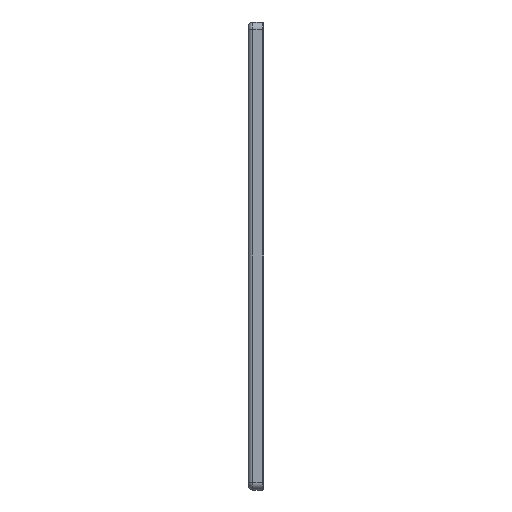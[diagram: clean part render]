
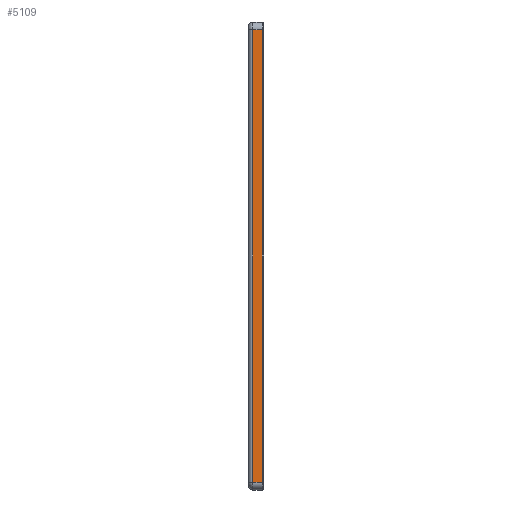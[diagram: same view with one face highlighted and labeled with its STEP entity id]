
A CAD part, left-side view. The second image highlights one B-rep face of the part: STEP entity #5109.
In plain terms, the highlighted planar face has unit normal (-1, 0, 0).
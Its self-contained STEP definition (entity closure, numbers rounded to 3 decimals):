
#111 = AXIS2_PLACEMENT_3D ( 'NONE', #865, #869, #870 ) ;
#622 = FACE_OUTER_BOUND ( 'NONE', #5677, .T. ) ;
#865 = CARTESIAN_POINT ( 'NONE',  ( -225., 10., 150. ) ) ;
#866 = PLANE ( 'NONE',  #111 ) ;
#869 = DIRECTION ( 'NONE',  ( 1., 0., 0. ) ) ;
#870 = DIRECTION ( 'NONE',  ( 0., 0., -1. ) ) ;
#985 = ORIENTED_EDGE ( 'NONE', *, *, #5996, .T. ) ;
#989 = ORIENTED_EDGE ( 'NONE', *, *, #6000, .T. ) ;
#993 = ORIENTED_EDGE ( 'NONE', *, *, #5998, .T. ) ;
#995 = ORIENTED_EDGE ( 'NONE', *, *, #5999, .T. ) ;
#1353 = LINE ( 'NONE', #2593, #1355 ) ;
#1354 = LINE ( 'NONE', #2622, #1359 ) ;
#1355 = VECTOR ( 'NONE', #2618, 1000. ) ;
#1358 = LINE ( 'NONE', #2629, #1361 ) ;
#1359 = VECTOR ( 'NONE', #2628, 1000. ) ;
#1360 = LINE ( 'NONE', #2631, #1363 ) ;
#1361 = VECTOR ( 'NONE', #2630, 1000. ) ;
#1363 = VECTOR ( 'NONE', #2632, 1000. ) ;
#2593 = CARTESIAN_POINT ( 'NONE',  ( -225., 7., 150. ) ) ;
#2618 = DIRECTION ( 'NONE',  ( 0., 0., -1. ) ) ;
#2622 = CARTESIAN_POINT ( 'NONE',  ( -225., 10., -145. ) ) ;
#2628 = DIRECTION ( 'NONE',  ( 0., -1., 0. ) ) ;
#2629 = CARTESIAN_POINT ( 'NONE',  ( -225., 10., 145. ) ) ;
#2630 = DIRECTION ( 'NONE',  ( 0., 1., 0. ) ) ;
#2631 = CARTESIAN_POINT ( 'NONE',  ( -225., 1., 150. ) ) ;
#2632 = DIRECTION ( 'NONE',  ( 0., 0., 1. ) ) ;
#4307 = CARTESIAN_POINT ( 'NONE',  ( -225., 7., -145. ) ) ;
#4326 = CARTESIAN_POINT ( 'NONE',  ( -225., 1., 145. ) ) ;
#4327 = CARTESIAN_POINT ( 'NONE',  ( -225., 7., 145. ) ) ;
#4338 = CARTESIAN_POINT ( 'NONE',  ( -225., 1., -145. ) ) ;
#5109 = ADVANCED_FACE ( 'NONE', ( #622 ), #866, .F. ) ;
#5677 = EDGE_LOOP ( 'NONE', ( #993, #989, #995, #985 ) ) ;
#5996 = EDGE_CURVE ( 'NONE', #6912, #6901, #1353, .T. ) ;
#5998 = EDGE_CURVE ( 'NONE', #6901, #6923, #1354, .T. ) ;
#5999 = EDGE_CURVE ( 'NONE', #6911, #6912, #1358, .T. ) ;
#6000 = EDGE_CURVE ( 'NONE', #6923, #6911, #1360, .T. ) ;
#6901 = VERTEX_POINT ( 'NONE', #4307 ) ;
#6911 = VERTEX_POINT ( 'NONE', #4326 ) ;
#6912 = VERTEX_POINT ( 'NONE', #4327 ) ;
#6923 = VERTEX_POINT ( 'NONE', #4338 ) ;
